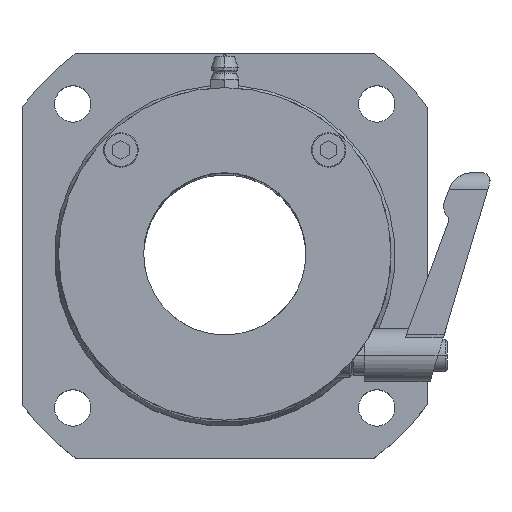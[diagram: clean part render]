
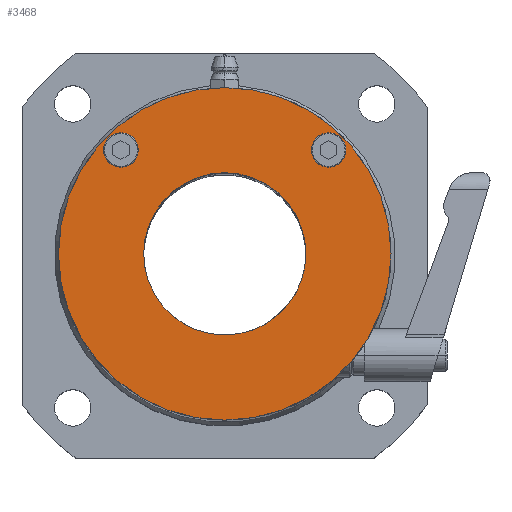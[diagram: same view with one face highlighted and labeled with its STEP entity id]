
A CAD part, top view. The second image highlights one B-rep face of the part: STEP entity #3468.
In plain terms, the highlighted planar face has unit normal (0, 0, 1).
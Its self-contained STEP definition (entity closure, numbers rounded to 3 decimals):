
#106 = CARTESIAN_POINT ( 'NONE',  ( 0.222, -3.051, 92. ) ) ;
#389 = VERTEX_POINT ( 'NONE', #10041 ) ;
#397 = CARTESIAN_POINT ( 'NONE',  ( 20.222, -3.051, 92. ) ) ;
#738 = DIRECTION ( 'NONE',  ( 0., 0., 1. ) ) ;
#748 = CIRCLE ( 'NONE', #9045, 4.25 ) ;
#944 = AXIS2_PLACEMENT_3D ( 'NONE', #10084, #6752, #9403 ) ;
#1504 = CIRCLE ( 'NONE', #10015, 41. ) ;
#2138 = AXIS2_PLACEMENT_3D ( 'NONE', #4232, #7722, #11114 ) ;
#2212 = CARTESIAN_POINT ( 'NONE',  ( -19.778, -3.051, 92. ) ) ;
#2417 = ORIENTED_EDGE ( 'NONE', *, *, #9839, .F. ) ;
#2834 = VERTEX_POINT ( 'NONE', #2212 ) ;
#3023 = DIRECTION ( 'NONE',  ( 0., 0., 1. ) ) ;
#3074 = CARTESIAN_POINT ( 'NONE',  ( 25.822, 22.549, 92. ) ) ;
#3084 = DIRECTION ( 'NONE',  ( 0., 0., 1. ) ) ;
#3110 = CARTESIAN_POINT ( 'NONE',  ( 0.222, -3.051, 92. ) ) ;
#3139 = DIRECTION ( 'NONE',  ( 1., 0., 0. ) ) ;
#3247 = DIRECTION ( 'NONE',  ( 1., 0., 0. ) ) ;
#3310 = VERTEX_POINT ( 'NONE', #5214 ) ;
#3334 = DIRECTION ( 'NONE',  ( 0., 0., 1. ) ) ;
#3386 = VERTEX_POINT ( 'NONE', #4673 ) ;
#3468 = ADVANCED_FACE ( 'NONE', ( #7646, #7592, #10805, #8445 ), #4909, .T. ) ;
#3649 = CIRCLE ( 'NONE', #944, 41. ) ;
#3755 = VERTEX_POINT ( 'NONE', #7413 ) ;
#3833 = ORIENTED_EDGE ( 'NONE', *, *, #8656, .F. ) ;
#3847 = ORIENTED_EDGE ( 'NONE', *, *, #9688, .F. ) ;
#3915 = CARTESIAN_POINT ( 'NONE',  ( 0.222, -3.051, 92. ) ) ;
#4215 = AXIS2_PLACEMENT_3D ( 'NONE', #3915, #3084, #3247 ) ;
#4228 = AXIS2_PLACEMENT_3D ( 'NONE', #3074, #3023, #3139 ) ;
#4232 = CARTESIAN_POINT ( 'NONE',  ( 25.822, 22.549, 92. ) ) ;
#4673 = CARTESIAN_POINT ( 'NONE',  ( -40.778, -3.051, 92. ) ) ;
#4813 = EDGE_CURVE ( 'NONE', #3386, #3310, #3649, .T. ) ;
#4909 = PLANE ( 'NONE',  #4215 ) ;
#4998 = CIRCLE ( 'NONE', #4228, 4.25 ) ;
#5065 = CIRCLE ( 'NONE', #2138, 4.25 ) ;
#5182 = EDGE_CURVE ( 'NONE', #5376, #2834, #10333, .T. ) ;
#5214 = CARTESIAN_POINT ( 'NONE',  ( 41.222, -3.051, 92. ) ) ;
#5376 = VERTEX_POINT ( 'NONE', #397 ) ;
#5532 = DIRECTION ( 'NONE',  ( 0., 0., 1. ) ) ;
#5569 = EDGE_LOOP ( 'NONE', ( #3847, #10270 ) ) ;
#5583 = CARTESIAN_POINT ( 'NONE',  ( -25.378, 22.549, 92. ) ) ;
#5704 = DIRECTION ( 'NONE',  ( 1., 0., 0. ) ) ;
#5812 = EDGE_CURVE ( 'NONE', #3310, #3386, #1504, .T. ) ;
#5881 = AXIS2_PLACEMENT_3D ( 'NONE', #10780, #8303, #8472 ) ;
#6192 = EDGE_LOOP ( 'NONE', ( #10054, #7652 ) ) ;
#6385 = CARTESIAN_POINT ( 'NONE',  ( 30.072, 22.549, 92. ) ) ;
#6448 = EDGE_CURVE ( 'NONE', #3755, #7637, #4998, .T. ) ;
#6686 = VERTEX_POINT ( 'NONE', #9682 ) ;
#6752 = DIRECTION ( 'NONE',  ( 0., 0., 1. ) ) ;
#6777 = EDGE_LOOP ( 'NONE', ( #3833, #8304 ) ) ;
#6839 = DIRECTION ( 'NONE',  ( 1., 0., 0. ) ) ;
#7035 = DIRECTION ( 'NONE',  ( 0., 0., 1. ) ) ;
#7166 = CIRCLE ( 'NONE', #8042, 20. ) ;
#7413 = CARTESIAN_POINT ( 'NONE',  ( 21.572, 22.549, 92. ) ) ;
#7567 = ORIENTED_EDGE ( 'NONE', *, *, #6448, .F. ) ;
#7592 = FACE_BOUND ( 'NONE', #6777, .T. ) ;
#7637 = VERTEX_POINT ( 'NONE', #6385 ) ;
#7640 = DIRECTION ( 'NONE',  ( 1., 0., 0. ) ) ;
#7646 = FACE_BOUND ( 'NONE', #8175, .T. ) ;
#7652 = ORIENTED_EDGE ( 'NONE', *, *, #5812, .T. ) ;
#7722 = DIRECTION ( 'NONE',  ( 0., 0., 1. ) ) ;
#8042 = AXIS2_PLACEMENT_3D ( 'NONE', #8408, #738, #5704 ) ;
#8175 = EDGE_LOOP ( 'NONE', ( #7567, #2417 ) ) ;
#8303 = DIRECTION ( 'NONE',  ( 0., 0., 1. ) ) ;
#8304 = ORIENTED_EDGE ( 'NONE', *, *, #10387, .F. ) ;
#8408 = CARTESIAN_POINT ( 'NONE',  ( 0.222, -3.051, 92. ) ) ;
#8445 = FACE_BOUND ( 'NONE', #5569, .T. ) ;
#8472 = DIRECTION ( 'NONE',  ( 1., 0., 0. ) ) ;
#8656 = EDGE_CURVE ( 'NONE', #389, #6686, #10863, .T. ) ;
#8892 = DIRECTION ( 'NONE',  ( 1., 0., 0. ) ) ;
#9045 = AXIS2_PLACEMENT_3D ( 'NONE', #5583, #5532, #8892 ) ;
#9403 = DIRECTION ( 'NONE',  ( 1., 0., 0. ) ) ;
#9613 = AXIS2_PLACEMENT_3D ( 'NONE', #3110, #3334, #6839 ) ;
#9682 = CARTESIAN_POINT ( 'NONE',  ( -21.128, 22.549, 92. ) ) ;
#9688 = EDGE_CURVE ( 'NONE', #2834, #5376, #7166, .T. ) ;
#9839 = EDGE_CURVE ( 'NONE', #7637, #3755, #5065, .T. ) ;
#10015 = AXIS2_PLACEMENT_3D ( 'NONE', #106, #7035, #7640 ) ;
#10041 = CARTESIAN_POINT ( 'NONE',  ( -29.628, 22.549, 92. ) ) ;
#10054 = ORIENTED_EDGE ( 'NONE', *, *, #4813, .T. ) ;
#10084 = CARTESIAN_POINT ( 'NONE',  ( 0.222, -3.051, 92. ) ) ;
#10270 = ORIENTED_EDGE ( 'NONE', *, *, #5182, .F. ) ;
#10333 = CIRCLE ( 'NONE', #9613, 20. ) ;
#10387 = EDGE_CURVE ( 'NONE', #6686, #389, #748, .T. ) ;
#10780 = CARTESIAN_POINT ( 'NONE',  ( -25.378, 22.549, 92. ) ) ;
#10805 = FACE_OUTER_BOUND ( 'NONE', #6192, .T. ) ;
#10863 = CIRCLE ( 'NONE', #5881, 4.25 ) ;
#11114 = DIRECTION ( 'NONE',  ( 1., 0., 0. ) ) ;
